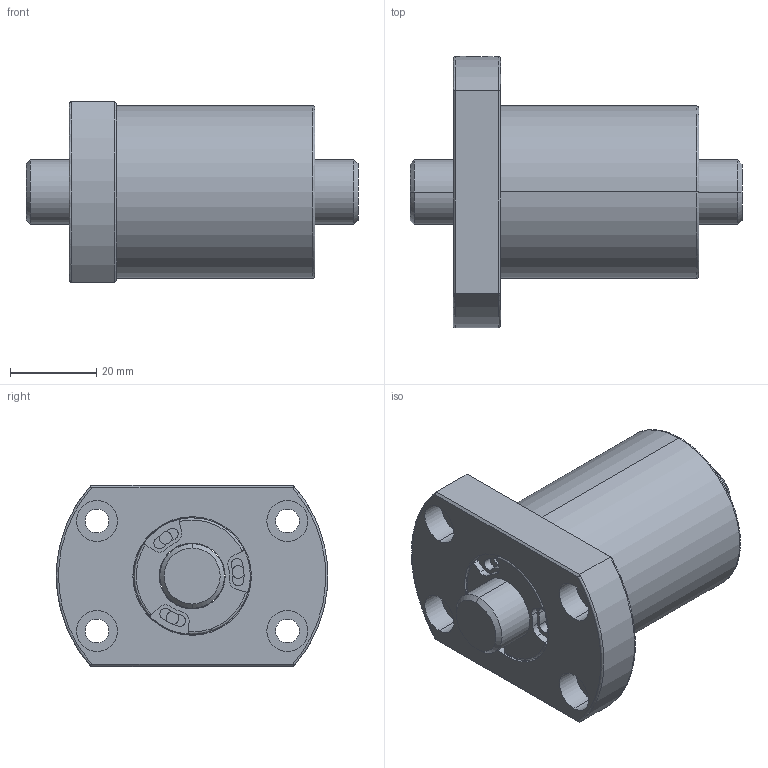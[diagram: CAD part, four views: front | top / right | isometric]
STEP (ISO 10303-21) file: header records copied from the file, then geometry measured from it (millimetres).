
FILE_DESCRIPTION (( 'STEP AP203' ), '1' );
FILE_NAME ('SFVSR01520A1D-C.STEP', '2020-06-17T04:00:52', ( '' ), ( '' ), 'SwSTEP 2.0', 'SolidWorks 2013', '' );
FILE_SCHEMA (( 'CONFIG_CONTROL_DESIGN' ));
Length unit declared in the file: millimetre
Products named in the file (1): SFVSR01520A1D-C
Bounding box: 77 x 62.94 x 42 mm (x, y, z)
Volume: 82593.3 mm3; surface area: 22281.5 mm2
Topology: 2 solids, 2 shells, 248 faces, 612 edges, 392 vertices
Faces by surface type: cylinder 138, plane 80, cone 16, bspline 14
Entity records: 8277 total; most frequent: CARTESIAN_POINT 2121, DIRECTION 1390, ORIENTED_EDGE 1224, EDGE_CURVE 612, AXIS2_PLACEMENT_3D 589, VERTEX_POINT 392, CIRCLE 354, EDGE_LOOP 286
